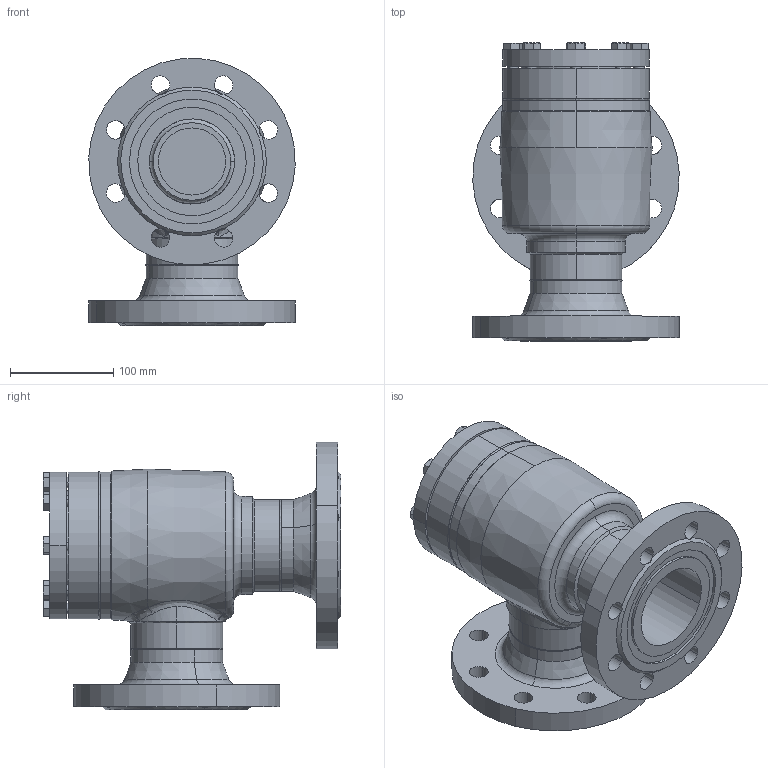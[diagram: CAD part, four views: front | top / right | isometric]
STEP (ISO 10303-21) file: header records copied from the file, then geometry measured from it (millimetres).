
FILE_DESCRIPTION (( 'STEP AP214' ), '1' );
FILE_NAME ('RV28420D18-DN080_DIN-FL-N_PS40.STEP', '2007-01-08T07:37:44', ( 'Herr Grams' ), ( 'AWP GmbH' ), 'SwSTEP 2.0', 'SolidWorks 2002296', '' );
FILE_SCHEMA (( 'AUTOMOTIVE_DESIGN' ));
Length unit declared in the file: millimetre
Products named in the file (12): RV28420D18-DN080_DIN-FL-N_PS40; Gehäuse-kpl16420-DN080_DIN_PS40_Standard; Gehäuse-kpl16400-DN080_R1_Standard; Gehäuse16400-DN080_Standard; Kopfstück16300-DN080_Standard; bead-DN080-1_Standard; bead-DN080-3_Standard; bead-DN080-4_Standard; Flansch-DIN-Nut_PS40_DIN-Flansch-DN080_PS40-Nut; RV28300E18_Deck+Schr-DN80_Standard; Deckel28300E18-DN80_Standard; Sechskantschraube-DIN933_M10x 30
Assembly tree (19 placements, depth 4):
  RV28420D18-DN080_DIN-FL-N_PS40
    Gehäuse-kpl16420-DN080_DIN_PS40_Standard
      Flansch-DIN-Nut_PS40_DIN-Flansch-DN080_PS40-Nut  x2
      bead-DN080-3_Standard
      Gehäuse-kpl16400-DN080_R1_Standard
        bead-DN080-1_Standard
        Gehäuse16400-DN080_Standard
        Kopfstück16300-DN080_Standard
      bead-DN080-4_Standard
    RV28300E18_Deck+Schr-DN80_Standard
      Sechskantschraube-DIN933_M10x 30  x8
      Deckel28300E18-DN80_Standard
Bounding box: 199.81 x 288.4 x 258.9 mm (x, y, z)
Volume: 2853590.5 mm3; surface area: 490232.7 mm2
Topology: 16 solids, 16 shells, 383 faces, 886 edges, 541 vertices
Faces by surface type: cone 131, cylinder 118, plane 104, bspline 20, torus 10
Entity records: 17641 total; most frequent: CARTESIAN_POINT 12977, DIRECTION 881, ORIENTED_EDGE 816, EDGE_CURVE 408, AXIS2_PLACEMENT_3D 392, VERTEX_POINT 257, EDGE_LOOP 219, CIRCLE 217
